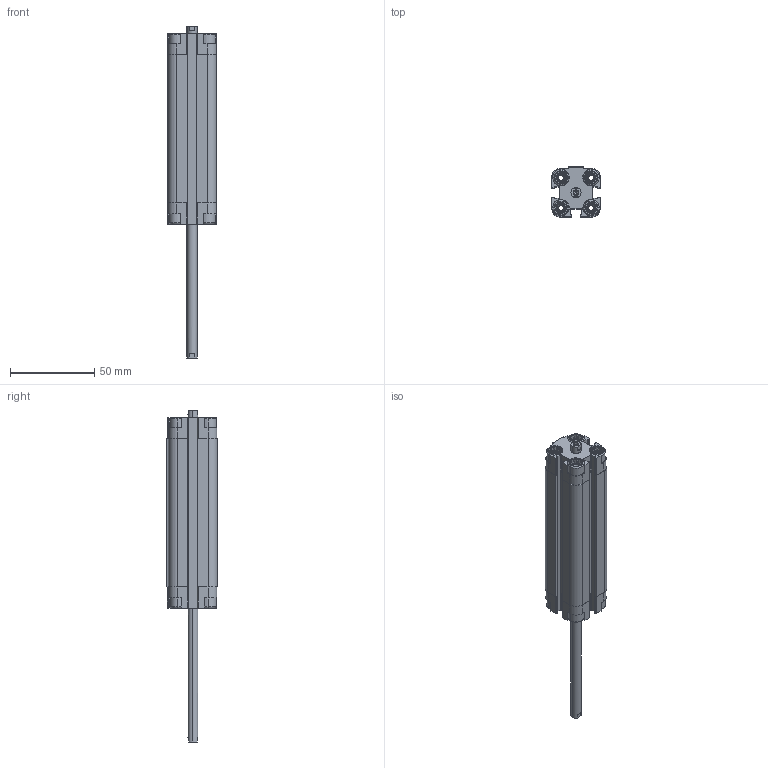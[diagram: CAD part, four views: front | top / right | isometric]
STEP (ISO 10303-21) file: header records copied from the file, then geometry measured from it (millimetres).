
FILE_DESCRIPTION (( 'STEP AP203' ), '1' );
FILE_NAME ('CDVU12-75F-P.STEP', '2020-07-24T18:02:35', ( '' ), ( '' ), 'SwSTEP 2.0', 'SolidWorks 2019', '' );
FILE_SCHEMA (( 'CONFIG_CONTROL_DESIGN' ));
Length unit declared in the file: millimetre
Products named in the file (1): CDVU12-75F-P
Bounding box: 29 x 30 x 197 mm (x, y, z)
Volume: 66300.2 mm3; surface area: 35148.4 mm2
Topology: 2 solids, 2 shells, 566 faces, 1508 edges, 980 vertices
Faces by surface type: plane 338, cylinder 164, cone 48, torus 16
Entity records: 17779 total; most frequent: CARTESIAN_POINT 3623, ORIENTED_EDGE 3000, DIRECTION 2850, EDGE_CURVE 1500, VERTEX_POINT 980, AXIS2_PLACEMENT_3D 975, VECTOR 900, LINE 900
